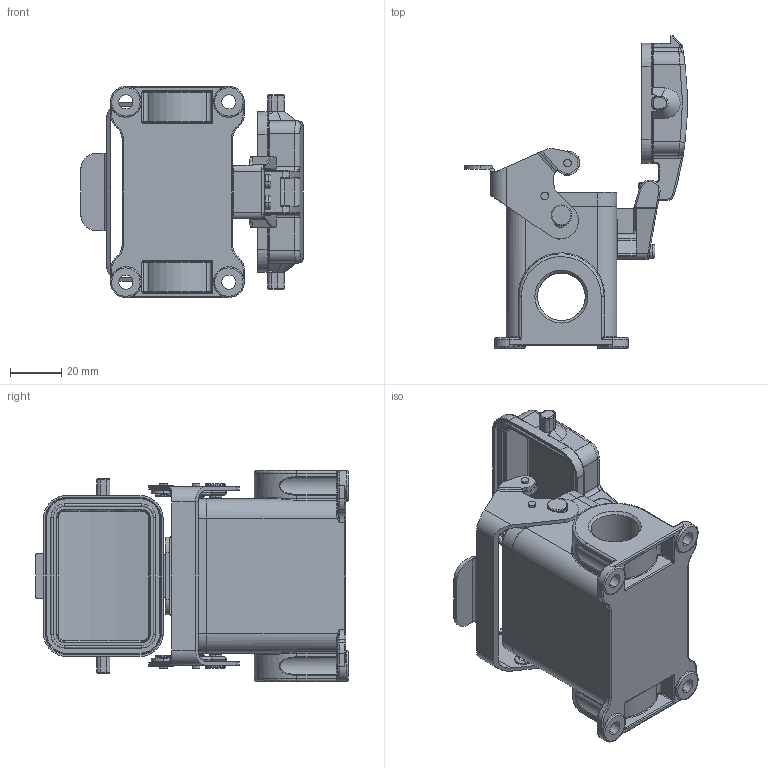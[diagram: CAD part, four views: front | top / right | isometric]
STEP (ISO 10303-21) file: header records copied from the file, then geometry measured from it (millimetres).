
FILE_DESCRIPTION (( 'STEP AP203' ), '1' );
FILE_NAME ('H6B-SDR-2M20.STEP', '2023-05-17T10:42:25', ( '' ), ( '' ), 'SwSTEP 2.0', 'SolidWorks 2016', '' );
FILE_SCHEMA (( 'CONFIG_CONTROL_DESIGN' ));
Length unit declared in the file: millimetre
Products named in the file (14): baohugaitanpian; tanhuang; baohugailuosi; 0000061120; prt0001; asm0002; maoding; chaxiao; 6b-surface-m-lowconstruction; H6B-SDR-2M20; 6bdankou; kahuan; b-xl-t-gudingjian; maoding1
Assembly tree (20 placements, depth 3):
  H6B-SDR-2M20
    6b-surface-m-lowconstruction
    prt0001
    chaxiao
    b-xl-t-gudingjian
    0000061120
    baohugaitanpian
    baohugailuosi  x2
    asm0002
      6bdankou
      kahuan  x2
      maoding1  x4
      tanhuang  x2
      maoding  x2
Bounding box: 86.33 x 121.4 x 82 mm (x, y, z)
Volume: 88831.7 mm3; surface area: 59576.3 mm2
Topology: 18 solids, 19 shells, 1429 faces, 3467 edges, 2088 vertices
Faces by surface type: cylinder 637, bspline 410, plane 306, cone 76
Entity records: 167150 total; most frequent: CARTESIAN_POINT 140117, ORIENTED_EDGE 5754, DIRECTION 4735, EDGE_CURVE 2893, AXIS2_PLACEMENT_3D 1775, VERTEX_POINT 1748, EDGE_LOOP 1245, LINE 1185
